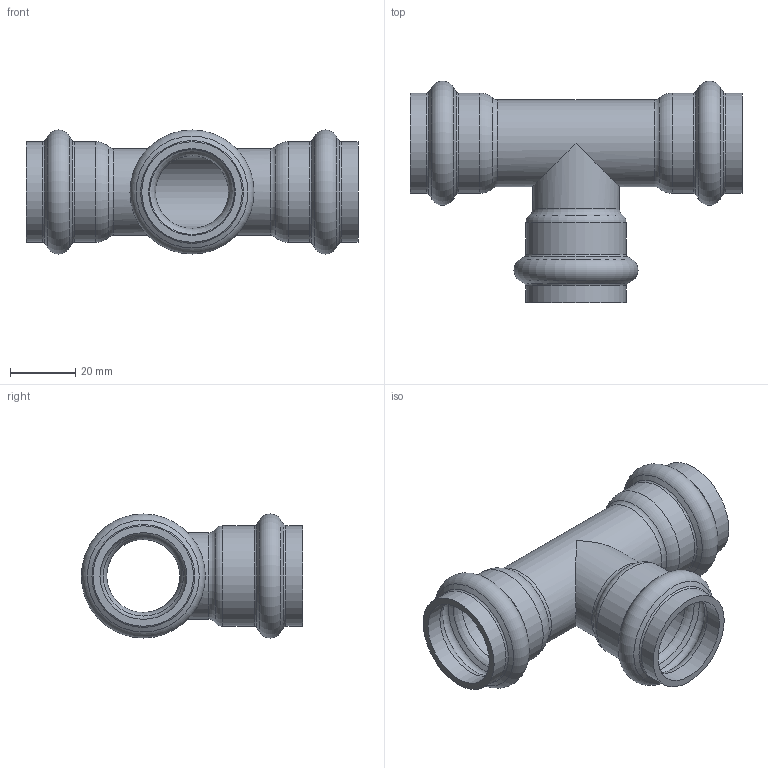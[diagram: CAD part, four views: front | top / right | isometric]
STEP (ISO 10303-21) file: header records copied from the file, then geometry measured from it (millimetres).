
FILE_DESCRIPTION(/* description */ ('VIC TEE STYLE P592 (P X P X P)','CAx-IF Rec.Pracs.---Representation and Presentation of Product Manufacturing Information (PMI)---4.0---2014-10-13'),/* implementation_level */ '2;1');
FILE_NAME(/* name */ 'C:\Users\Vjadhav\AppData\Roaming\Autodesk\ApplicationPlugins\Back Up\Victaulic_SS-Vic-Press-TP 304_Tee_Style P592 (VP)\Victaulic_SS-Vic-Press-TP 304_Tee_Style P592 (VP)_0.75 (20).stp',/* time_stamp */ '2020-08-12T19:00:51+06:00',/* author */ ('cgray'),/* organization */ ('Victaulic'),/* preprocessor_version */ 'ST-DEVELOPER v17.2',/* originating_system */ 'Autodesk Inventor 2019',/* authorisation */ '');
FILE_SCHEMA (('AP242_MANAGED_MODEL_BASED_3D_ENGINEERING_MIM_LF { 1 0 10303 442 1 1 4 }'));
Length unit declared in the file: inch
Products named in the file (1): P592-0.75
Bounding box: 102.11 x 68.1 x 38.15 mm (x, y, z)
Volume: 27216.9 mm3; surface area: 26380 mm2
Topology: 1 solids, 1 shells, 61 faces, 220 edges, 160 vertices
Faces by surface type: torus 30, cylinder 16, cone 12, plane 3
Full cylindrical faces by diameter (mm): 22.454 x2, 26.67 x8, 30.886 x6
Entity records: 2745 total; most frequent: DIRECTION 560, CARTESIAN_POINT 459, ORIENTED_EDGE 440, AXIS2_PLACEMENT_3D 265, EDGE_CURVE 220, CIRCLE 182, VERTEX_POINT 160, EDGE_LOOP 64
